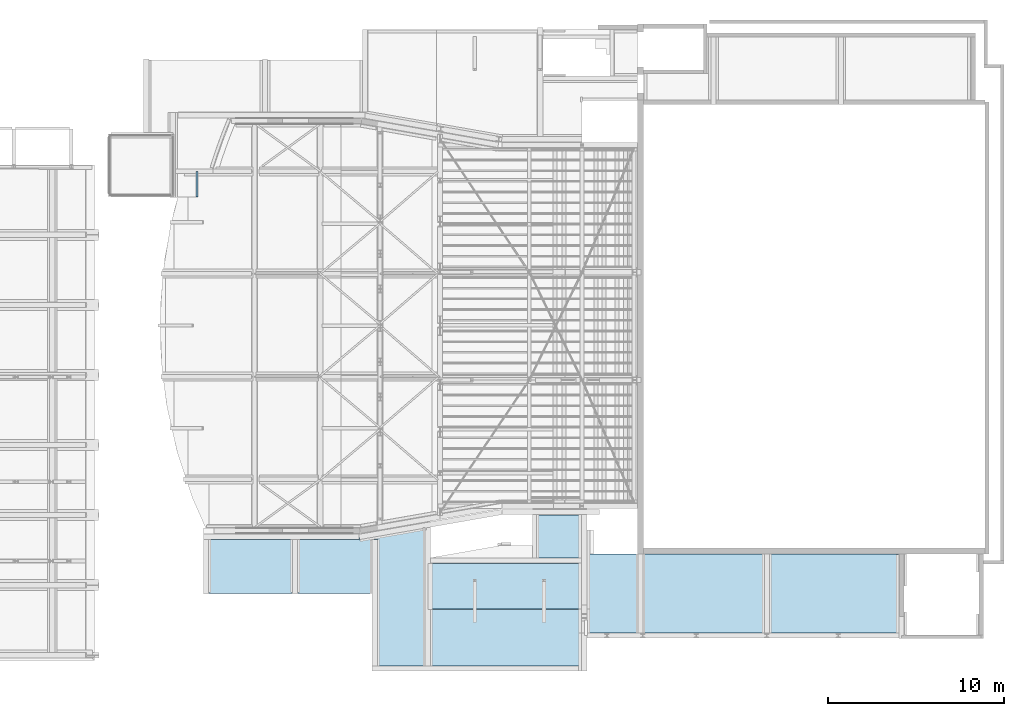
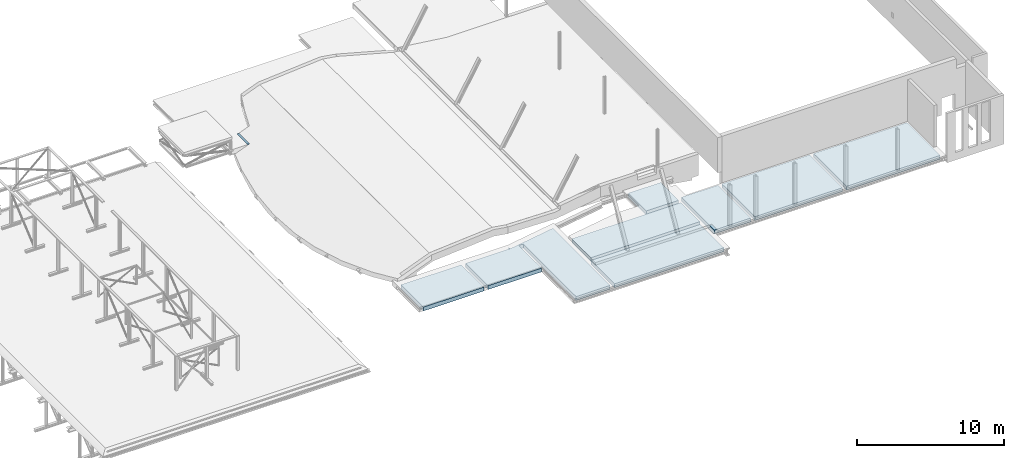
# One storey, part 38 of 50: 3 slabs, 20 openings.
"""IFC2X3 building model written with IfcOpenShell, lengths in millimetres."""

from ifc_helpers import new_model, entity, si_unit, converted_unit, derived_unit, direction, frame, frame_2d, origin, origin_2d_with_axis, place, context, subcontext, project, spatial, polyline, rectangle, outline, extrude, clip, halfspace, faceted_brep, material, layer, layer_set, layer_usage, type_object, element, save


model = new_model("IFC2X3")

# Units and contexts
model_context = context("Model", 3, precision=0.01, world=origin(), true_north=direction((6.12303176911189e-17, 1.0)))
body_context = subcontext(model_context, "Body", "Model", "MODEL_VIEW")
ifc_project = project(units=[si_unit("LENGTHUNIT", "METRE", prefix="MILLI"), si_unit("AREAUNIT", "SQUARE_METRE", prefix="MILLI"), si_unit("VOLUMEUNIT", "CUBIC_METRE"), converted_unit("PLANEANGLEUNIT", "DEGREE", entity("IfcRatioMeasure", 0.0174532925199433), si_unit("PLANEANGLEUNIT", "RADIAN"), dimensions=[0, 0, 0, 0, 0, 0, 0]), si_unit("MASSUNIT", "GRAM", prefix="KILO"), derived_unit("MASSDENSITYUNIT", [(si_unit("MASSUNIT", "GRAM", prefix="KILO"), 1), (si_unit("LENGTHUNIT", "METRE"), -3)]), derived_unit("MOMENTOFINERTIAUNIT", [(si_unit("LENGTHUNIT", "METRE"), 4)]), si_unit("TIMEUNIT", "SECOND"), si_unit("FREQUENCYUNIT", "HERTZ"), si_unit("THERMODYNAMICTEMPERATUREUNIT", "DEGREE_CELSIUS"), derived_unit("THERMALTRANSMITTANCEUNIT", [(si_unit("MASSUNIT", "GRAM", prefix="KILO"), 1), (si_unit("THERMODYNAMICTEMPERATUREUNIT", "KELVIN"), -1), (si_unit("TIMEUNIT", "SECOND"), -3)]), derived_unit("VOLUMETRICFLOWRATEUNIT", [(si_unit("LENGTHUNIT", "METRE"), 3), (si_unit("TIMEUNIT", "SECOND"), -1)]), si_unit("ELECTRICCURRENTUNIT", "AMPERE"), si_unit("ELECTRICVOLTAGEUNIT", "VOLT"), si_unit("POWERUNIT", "WATT"), si_unit("FORCEUNIT", "NEWTON", prefix="KILO"), si_unit("ILLUMINANCEUNIT", "LUX"), si_unit("LUMINOUSFLUXUNIT", "LUMEN"), si_unit("LUMINOUSINTENSITYUNIT", "CANDELA"), derived_unit("USERDEFINED", [(si_unit("MASSUNIT", "GRAM", prefix="KILO"), -1), (si_unit("LENGTHUNIT", "METRE"), -2), (si_unit("TIMEUNIT", "SECOND"), 3), (si_unit("LUMINOUSFLUXUNIT", "LUMEN"), 1)]), derived_unit("LINEARVELOCITYUNIT", [(si_unit("LENGTHUNIT", "METRE"), 1), (si_unit("TIMEUNIT", "SECOND"), -1)]), si_unit("PRESSUREUNIT", "PASCAL"), derived_unit("USERDEFINED", [(si_unit("LENGTHUNIT", "METRE"), -2), (si_unit("MASSUNIT", "GRAM", prefix="KILO"), 1), (si_unit("TIMEUNIT", "SECOND"), -2)]), derived_unit("LINEARFORCEUNIT", [(si_unit("MASSUNIT", "GRAM", prefix="KILO"), 1), (si_unit("LENGTHUNIT", "METRE"), 1), (si_unit("TIMEUNIT", "SECOND"), -2), (si_unit("LENGTHUNIT", "METRE"), -1)]), derived_unit("PLANARFORCEUNIT", [(si_unit("MASSUNIT", "GRAM", prefix="KILO"), 1), (si_unit("LENGTHUNIT", "METRE"), 1), (si_unit("TIMEUNIT", "SECOND"), -2), (si_unit("LENGTHUNIT", "METRE"), -2)])], contexts=[model_context])

# Site, building, storey
site_placement = place(None, origin())
site = spatial("IfcSite", under=ifc_project, at=site_placement, Name="Theater aan de Parade", CompositionType="ELEMENT")
building_placement = place(site_placement, origin())
building = spatial("IfcBuilding", under=site, at=building_placement, Name="Theater aan de Parade", CompositionType="ELEMENT")
storey_placement = place(building_placement, frame((0.0, 0.0, 15820.0)))
storey = spatial("IfcBuildingStorey", under=building, at=storey_placement, Name="04 vierde verdieping", CompositionType="ELEMENT", Elevation=15820.0)

# Slab, openings
ifc_material_1 = material(Name="00_PBT_MAT_systeemvloer")
ifc_layer_1 = layer(ifc_material_1, 320.0)
ifc_layer_set_1 = layer_set([ifc_layer_1], Name="Floor:28_PBT_FL_kanaalplaat_d=320")
ifc_layer_usage_1 = layer_usage(ifc_layer_set_1, "AXIS3", "POSITIVE", 0.0)
slab_type_1 = type_object("IfcSlabType", Name="Floor:28_PBT_FL_kanaalplaat_d=320", PredefinedType="FLOOR", material=ifc_layer_set_1)
slab_1_placement = place(storey_placement, frame((55620.0, 14982.0, 225.0)))
slab_1 = element("IfcSlab", 1, at=slab_1_placement, inside=storey, type_object=slab_type_1, material=ifc_layer_usage_1, Name="Floor:28_PBT_FL_kanaalplaat_d=320", ObjectType="Floor:28_PBT_FL_kanaalplaat_d=320", PredefinedType="FLOOR", context=body_context, shape_type="SweptSolid", body=[
    extrude(outline(polyline([(4395.45213534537, -3511.50000000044), (4395.45213534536, -1996.69666399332), (13290.0042108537, -1996.6966639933), (13290.0042108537, 754.28720412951), (7390.42951088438, 754.287204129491), (7390.42951088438, 3521.50000000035), (4565.45213534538, 3521.50000000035), (4565.45213534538, 1126.50024352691), (-13290.0042108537, 1126.50024352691), (-13290.0042108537, -2433.50000000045), (-13450.0042108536, -2433.50000000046), (-13450.0042108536, -3511.50000000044), (4395.45213534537, -3511.50000000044)])), frame((13290.0042108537, 3351.50000000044, 320.0), z_axis=(0.0, 0.0, -1.0), x_axis=(-1.0, 0.0, 0.0)), (0.0, 0.0, 1.0), 320.000000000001),
])
opening_1_placement = place(slab_1_placement, origin())
element("IfcOpeningElement", 2, at=opening_1_placement, cuts=slab_1, ObjectType="Opening", context=body_context, shape_type="SweptSolid", body=[
    extrude(rectangle(XDim=17725.4563461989, YDim=320.000000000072, at=origin_2d_with_axis()), frame((17737.2802486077, -160.0, 0.0)), (0.0, 0.0, 1.0), 319.999999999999),
])
opening_2_placement = place(slab_1_placement, frame((11646.2561009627, -20.0, -5.0)))
element("IfcOpeningElement", 3, at=opening_2_placement, cuts=slab_1, ObjectType="Opening", context=body_context, shape_type="Brep", body=[
    faceted_brep([(105.0, 0.0, 325.0), (425.0, 0.0, 325.0), (105.0, 4498.00024352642, 325.0), (425.0, 4498.00024352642, 325.0), (0.0, 0.0, 2.0), (0.0, 0.0, 1.0), (105.0, 0.0, 1.0), (425.0, 0.0, 1.0), (105.0, 0.0, 0.0), (425.0, 0.0, 0.0), (530.0, 0.0, 2.0), (530.0, 0.0, 1.0), (425.0, 0.0, 2.0), (105.0, 0.0, 2.0), (105.0, 4498.00024352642, 1.0), (0.0, 4498.00024352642, 1.0), (0.0, 4498.00024352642, 2.0), (105.0, 4498.00024352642, 0.0), (425.0, 4498.00024352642, 1.0), (425.0, 4498.00024352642, 0.0), (530.0, 4498.00024352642, 1.0), (530.0, 4498.00024352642, 2.0), (425.0, 4498.00024352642, 2.0), (105.0, 4498.00024352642, 2.0), (425.0, 500.0, 1.0), (425.0, 500.0, 2.0), (425.0, 4348.00024352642, 1.0), (425.0, 4348.00024352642, 2.0), (105.0, 400.0, 2.0), (105.0, 400.0, 1.0), (105.0, 4398.00024352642, 1.0), (105.0, 4398.00024352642, 2.0), (530.0, 4348.00024352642, 2.0), (530.0, 4348.00024352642, 1.0), (0.0, 4398.00024352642, 2.0), (0.0, 4398.00024352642, 1.0), (530.0, 500.0, 2.0), (530.0, 500.0, 1.0), (0.0, 400.0, 2.0), (0.0, 400.0, 1.0)], [[[0, 1, 2]], [[3, 2, 1]], [[4, 5, 6]], [[7, 6, 8]], [[8, 9, 7]], [[10, 7, 11]], [[7, 12, 6]], [[1, 0, 13]], [[6, 12, 13]], [[12, 7, 10]], [[13, 12, 1]], [[13, 4, 6]], [[14, 15, 16]], [[17, 14, 18]], [[18, 19, 17]], [[20, 18, 21]], [[14, 22, 18]], [[23, 2, 3]], [[23, 22, 14]], [[21, 18, 22]], [[3, 22, 23]], [[14, 16, 23]], [[9, 24, 7]], [[24, 9, 19]], [[1, 12, 25]], [[1, 25, 3]], [[24, 26, 25]], [[26, 19, 18]], [[19, 26, 24]], [[27, 22, 3]], [[27, 3, 25]], [[26, 27, 25]], [[0, 28, 13]], [[28, 0, 2]], [[8, 6, 29]], [[8, 29, 17]], [[28, 30, 29]], [[31, 2, 23]], [[2, 31, 28]], [[30, 14, 17]], [[30, 17, 29]], [[31, 30, 28]], [[9, 8, 19]], [[17, 19, 8]], [[22, 27, 21]], [[32, 21, 27]], [[20, 33, 26]], [[26, 18, 20]], [[32, 27, 26]], [[26, 33, 32]], [[21, 32, 33]], [[33, 20, 21]], [[34, 31, 23]], [[23, 16, 34]], [[15, 14, 30]], [[30, 35, 15]], [[34, 16, 15]], [[15, 35, 34]], [[31, 34, 35]], [[35, 30, 31]], [[25, 12, 10]], [[10, 36, 25]], [[37, 11, 7]], [[7, 24, 37]], [[36, 10, 11]], [[11, 37, 36]], [[25, 36, 37]], [[37, 24, 25]], [[38, 4, 13]], [[13, 28, 38]], [[29, 6, 5]], [[5, 39, 29]], [[38, 28, 29]], [[29, 39, 38]], [[4, 38, 39]], [[39, 5, 4]]]),
])
opening_3_placement = place(slab_1_placement, frame((18826.8589692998, -20.0, -5.0)))
element("IfcOpeningElement", 4, at=opening_3_placement, cuts=slab_1, ObjectType="Opening", context=body_context, shape_type="Brep", body=[
    faceted_brep([(105.0, 0.0, 325.0), (425.0, 0.0, 325.0), (105.0, 4498.00024352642, 325.0), (425.0, 4498.00024352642, 325.0), (0.0, 0.0, 2.0), (0.0, 0.0, 1.0), (105.0, 0.0, 1.0), (425.0, 0.0, 1.0), (105.0, 0.0, 0.0), (425.0, 0.0, 0.0), (530.0, 0.0, 2.0), (530.0, 0.0, 1.0), (425.0, 0.0, 2.0), (105.0, 0.0, 2.0), (105.0, 4498.00024352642, 1.0), (0.0, 4498.00024352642, 1.0), (0.0, 4498.00024352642, 2.0), (105.0, 4498.00024352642, 0.0), (425.0, 4498.00024352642, 1.0), (425.0, 4498.00024352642, 0.0), (530.0, 4498.00024352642, 1.0), (530.0, 4498.00024352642, 2.0), (425.0, 4498.00024352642, 2.0), (105.0, 4498.00024352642, 2.0), (425.0, 500.0, 1.0), (425.0, 500.0, 2.0), (425.0, 4348.00024352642, 1.0), (425.0, 4348.00024352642, 2.0), (105.0, 400.0, 2.0), (105.0, 400.0, 1.0), (105.0, 4398.00024352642, 1.0), (105.0, 4398.00024352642, 2.0), (530.0, 4348.00024352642, 2.0), (530.0, 4348.00024352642, 1.0), (0.0, 4398.00024352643, 2.0), (0.0, 4398.00024352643, 1.0), (530.0, 500.0, 2.0), (530.0, 500.0, 1.0), (0.0, 400.0, 2.0), (0.0, 400.0, 1.0)], [[[0, 1, 2]], [[3, 2, 1]], [[4, 5, 6]], [[7, 6, 8]], [[8, 9, 7]], [[10, 7, 11]], [[7, 12, 6]], [[1, 0, 13]], [[6, 12, 13]], [[12, 7, 10]], [[13, 12, 1]], [[13, 4, 6]], [[14, 15, 16]], [[17, 14, 18]], [[18, 19, 17]], [[20, 18, 21]], [[14, 22, 18]], [[23, 2, 3]], [[23, 22, 14]], [[21, 18, 22]], [[3, 22, 23]], [[14, 16, 23]], [[9, 24, 7]], [[24, 9, 19]], [[1, 12, 25]], [[1, 25, 3]], [[24, 26, 25]], [[26, 19, 18]], [[19, 26, 24]], [[27, 22, 3]], [[27, 3, 25]], [[26, 27, 25]], [[0, 28, 13]], [[28, 0, 2]], [[8, 6, 29]], [[8, 29, 17]], [[28, 30, 29]], [[31, 2, 23]], [[2, 31, 28]], [[30, 14, 17]], [[30, 17, 29]], [[31, 30, 28]], [[9, 8, 19]], [[17, 19, 8]], [[22, 27, 21]], [[32, 21, 27]], [[20, 33, 26]], [[26, 18, 20]], [[32, 27, 26]], [[26, 33, 32]], [[21, 32, 33]], [[33, 20, 21]], [[34, 31, 23]], [[23, 16, 34]], [[15, 14, 30]], [[30, 35, 15]], [[34, 16, 15]], [[15, 35, 34]], [[31, 34, 35]], [[35, 30, 31]], [[25, 12, 10]], [[10, 36, 25]], [[37, 11, 7]], [[7, 24, 37]], [[36, 10, 11]], [[11, 37, 36]], [[25, 36, 37]], [[37, 24, 25]], [[38, 4, 13]], [[13, 28, 38]], [[29, 6, 5]], [[5, 39, 29]], [[38, 28, 29]], [[29, 39, 38]], [[4, 38, 39]], [[39, 5, 4]]]),
])
opening_4_placement = place(slab_1_placement, origin())
element("IfcOpeningElement", 5, at=opening_4_placement, cuts=slab_1, ObjectType="Opening", context=body_context, shape_type="SweptSolid", body=[
    extrude(rectangle(XDim=320.000000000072, YDim=8574.55207550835, at=origin_2d_with_axis()), frame((4267.27603775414, 4105.78720412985, 0.0), z_axis=(0.0, 0.0, 1.0), x_axis=(0.0, 1.0, 0.0)), (0.0, 0.0, 1.0), 319.999999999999),
])
opening_5_placement = place(slab_1_placement, origin())
element("IfcOpeningElement", 6, at=opening_5_placement, cuts=slab_1, ObjectType="Opening", context=body_context, shape_type="SweptSolid", body=[
    extrude(rectangle(XDim=339.999999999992, YDim=5560.0, at=origin_2d_with_axis()), frame((6812.0520755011, 6873.0, -10.0), z_axis=(0.0, 0.0, 1.0), x_axis=(0.0, 1.0, 0.0)), (0.0, 0.0, 1.0), 329.999999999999),
])
opening_6_placement = place(slab_1_placement, origin())
element("IfcOpeningElement", 7, at=opening_6_placement, cuts=slab_1, ObjectType="Opening", context=body_context, shape_type="SweptSolid", body=[
    extrude(rectangle(XDim=260.000000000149, YDim=2477.21279587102, at=origin_2d_with_axis()), frame((5899.5746999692, 5484.39360206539, -5.0)), (0.0, 0.0, 1.0), 325.000000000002),
])
opening_7_placement = place(slab_1_placement, origin())
element("IfcOpeningElement", 8, at=opening_7_placement, cuts=slab_1, ObjectType="Opening", context=body_context, shape_type="SweptSolid", body=[
    extrude(rectangle(XDim=5368.19666399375, YDim=340.000000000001, at=origin_2d_with_axis()), frame((8724.5520755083, 4038.901668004, -5.0), z_axis=(0.0, 0.0, 1.0), x_axis=(0.0, 1.0, 0.0)), (0.0, 0.0, 1.0), 330.000000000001),
])
opening_8_placement = place(slab_1_placement, origin())
element("IfcOpeningElement", 9, at=opening_8_placement, cuts=slab_1, ObjectType="Opening", context=body_context, shape_type="SweptSolid", body=[
    extrude(rectangle(XDim=1274.99999999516, YDim=320.000000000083, at=origin_2d_with_axis()), frame((26740.0084217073, 305.50000000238, 0.0), z_axis=(0.0, 0.0, 1.0), x_axis=(0.0, 1.0, 0.0)), (0.0, 0.0, 1.0), 319.999999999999),
])

ifc_layer_usage_2 = layer_usage(ifc_layer_set_1, "AXIS3", "POSITIVE", 0.0)
slab_type_2 = type_object("IfcSlabType", Name="Floor:28_PBT_FL_kanaalplaat_d=320", PredefinedType="FLOOR", material=ifc_layer_set_1)
slab_2_placement = place(storey_placement, frame((43014.909163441, 13115.0, 15.0)))
slab_2 = element("IfcSlab", 10, at=slab_2_placement, inside=storey, type_object=slab_type_2, material=ifc_layer_usage_2, Name="Floor:28_PBT_FL_kanaalplaat_d=320", ObjectType="Floor:28_PBT_FL_kanaalplaat_d=320", PredefinedType="FLOOR", context=body_context, shape_type="SweptSolid", body=[
    extrude(outline(polyline([(-10749.8214560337, -696.594638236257), (-10749.8214560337, -4058.39797424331), (1155.16183277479, -4058.39797424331), (1155.16183277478, 207.433892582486), (10749.8214560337, 207.433892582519), (10749.8214560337, 3431.6020257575), (1968.32743531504, 3431.6020257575), (-1855.26938052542, 4100.73146852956), (-1855.2693805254, -696.594638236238), (-10749.8214560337, -696.594638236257)])), frame((10579.8214560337, 3898.39797424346, 320.0), z_axis=(0.0, 0.0, -1.0), x_axis=(-1.0, 0.0, 0.0)), (0.0, 0.0, 1.0), 320.000000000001),
])
opening_9_placement = place(slab_2_placement, origin())
element("IfcOpeningElement", 11, at=opening_9_placement, cuts=slab_2, ObjectType="Opening", context=body_context, shape_type="SweptSolid", body=[
    extrude(rectangle(XDim=320.000000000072, YDim=11953.2332888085, at=origin_2d_with_axis()), frame((15251.2762676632, -160.0, 0.0), z_axis=(0.0, 0.0, 1.0), x_axis=(0.0, 1.0, 0.0)), (0.0, 0.0, 1.0), 319.999999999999),
])
opening_10_placement = place(slab_2_placement, origin())
element("IfcOpeningElement", 12, at=opening_10_placement, cuts=slab_2, ObjectType="Opening", context=body_context, shape_type="SweptSolid", body=[
    extrude(rectangle(XDim=339.999999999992, YDim=8849.55984125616, at=origin_2d_with_axis()), frame((4104.77992062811, 7330.0, 0.0), z_axis=(0.0, 0.0, 1.0), x_axis=(0.0, 1.0, 0.0)), (0.0, 0.0, 1.0), 319.999999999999),
])
opening_11_placement = place(slab_2_placement, origin())
element("IfcOpeningElement", 13, at=opening_11_placement, cuts=slab_2, ObjectType="Opening", context=body_context, shape_type="SweptSolid", body=[
    extrude(rectangle(XDim=8227.18093451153, YDim=340.000000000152, at=origin_2d_with_axis()), frame((12589.4769856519, 8026.14701886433, -5.0), z_axis=(0.0, 0.0, 1.0), x_axis=(-0.985030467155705, -0.172380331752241, 0.0)), (0.0, 0.0, 1.0), 325.0),
])
opening_12_placement = place(slab_2_placement, origin())
element("IfcOpeningElement", 14, at=opening_12_placement, cuts=slab_2, ObjectType="Opening", context=body_context, shape_type="SweptSolid", body=[
    extrude(rectangle(XDim=260.000000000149, YDim=2477.21279587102, at=origin_2d_with_axis()), frame((18504.6655365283, 7351.39360206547, 205.0)), (0.0, 0.0, 1.0), 325.000000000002),
])
opening_13_placement = place(slab_2_placement, origin())
element("IfcOpeningElement", 15, at=opening_13_placement, cuts=slab_2, ObjectType="Opening", context=body_context, shape_type="SweptSolid", body=[
    extrude(rectangle(XDim=320.000000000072, YDim=8574.55207550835, at=origin_2d_with_axis()), frame((16872.3668743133, 5972.78720412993, 210.0), z_axis=(0.0, 0.0, 1.0), x_axis=(0.0, 1.0, 0.0)), (0.0, 0.0, 1.0), 319.999999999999),
])
opening_14_placement = place(slab_2_placement, frame((12165.0908365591, -20.0, -85.0)))
element("IfcOpeningElement", 16, at=opening_14_placement, cuts=slab_2, ObjectType="Opening", context=body_context, shape_type="Brep", body=[
    faceted_brep([(0.0, 0.0, 2.0), (0.0, 0.0, 1.0), (100.0, 0.0, 1.0), (440.0, 0.0, 1.0), (100.0, 0.0, 0.0), (440.0, 0.0, 0.0), (540.0, 0.0, 2.0), (540.0, 0.0, 1.0), (440.0, 0.0, 2.0), (440.0, 0.0, 405.0), (100.0, 0.0, 405.0), (100.0, 0.0, 2.0), (440.0, 7866.8498889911, 0.0), (100.0, 7866.8498889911, 1.0), (100.0, 7866.8498889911, 2.0), (100.0, 7866.8498889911, 0.0), (0.0, 7866.8498889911, 1.0), (0.0, 7866.8498889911, 2.0), (440.0, 7866.8498889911, 405.0), (100.0, 7866.8498889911, 405.0), (440.0, 500.0, 1.0), (440.0, 500.0, 2.0), (100.0, 400.0, 2.0), (100.0, 400.0, 1.0), (100.0, 7766.84988899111, 1.0), (100.0, 7766.84988899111, 2.0), (0.0, 7766.8498889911, 2.0), (0.0, 7766.8498889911, 1.0), (540.0, 500.0, 2.0), (540.0, 500.0, 1.0), (0.0, 400.0, 2.0), (0.0, 400.0, 1.0)], [[[0, 1, 2]], [[3, 2, 4]], [[4, 5, 3]], [[6, 3, 7]], [[3, 8, 2]], [[9, 10, 11]], [[2, 8, 11]], [[8, 3, 6]], [[11, 8, 9]], [[11, 0, 2]], [[12, 13, 14]], [[13, 12, 15]], [[16, 17, 13]], [[14, 18, 12]], [[18, 14, 19]], [[17, 14, 13]], [[3, 5, 20]], [[9, 8, 21]], [[20, 12, 21]], [[12, 20, 5]], [[21, 18, 9]], [[18, 21, 12]], [[10, 9, 19]], [[18, 19, 9]], [[10, 22, 11]], [[22, 10, 19]], [[4, 2, 23]], [[4, 23, 15]], [[22, 24, 23]], [[25, 19, 14]], [[19, 25, 22]], [[24, 13, 15]], [[24, 15, 23]], [[25, 24, 22]], [[5, 4, 12]], [[15, 12, 4]], [[26, 25, 14]], [[14, 17, 26]], [[16, 13, 24]], [[24, 27, 16]], [[21, 8, 28]], [[6, 28, 8]], [[29, 7, 20]], [[3, 20, 7]], [[21, 28, 29]], [[29, 20, 21]], [[30, 0, 11]], [[11, 22, 30]], [[23, 2, 1]], [[1, 31, 23]], [[30, 22, 23]], [[23, 31, 30]], [[0, 30, 31]], [[31, 1, 0]], [[26, 17, 16]], [[16, 27, 26]], [[25, 26, 27]], [[27, 24, 25]], [[28, 6, 7]], [[7, 29, 28]]]),
])
opening_15_placement = place(slab_2_placement, frame((9149.65962325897, -20.0, -5.0)))
element("IfcOpeningElement", 17, at=opening_15_placement, cuts=slab_2, ObjectType="Opening", context=body_context, shape_type="Brep", body=[
    faceted_brep([(105.0, 0.0, 325.0), (445.0, 0.0, 325.0), (105.0, 7200.0, 325.0), (445.0, 7200.0, 325.0), (550.0, 500.0, 2.0), (550.0, 0.0, 2.0), (550.0, 0.0, 1.0), (550.0, 500.0, 1.0), (445.0, 0.0, 0.0), (445.0, 0.0, 1.0), (105.0, 0.0, 0.0), (445.0, 0.0, 2.0), (105.0, 7200.0, 1.0), (0.0, 7200.0, 1.0), (0.0, 7200.0, 2.0), (105.0, 7200.0, 0.0), (445.0, 7200.0, 1.0), (445.0, 7200.0, 0.0), (550.0, 7200.0, 1.0), (550.0, 7200.0, 2.0), (445.0, 7200.0, 2.0), (105.0, 7200.0, 2.0), (445.0, 500.0, 1.0), (445.0, 500.0, 2.0), (445.0, 7050.0, 1.0), (445.0, 7050.0, 2.0), (105.0, 7100.0, 2.0), (105.0, 7100.0, 1.0), (550.0, 7050.0, 2.0), (550.0, 7050.0, 1.0), (0.0, 7100.0, 2.0), (0.0, 7100.0, 1.0)], [[[0, 1, 2]], [[3, 2, 1]], [[4, 5, 6]], [[6, 7, 4]], [[8, 9, 10]], [[11, 10, 9]], [[6, 5, 9]], [[1, 0, 11]], [[10, 11, 0]], [[9, 5, 11]], [[12, 13, 14]], [[15, 12, 16]], [[16, 17, 15]], [[18, 16, 19]], [[12, 20, 16]], [[21, 2, 3]], [[21, 20, 12]], [[19, 16, 20]], [[3, 20, 21]], [[12, 14, 21]], [[8, 22, 9]], [[22, 8, 17]], [[1, 11, 23]], [[1, 23, 3]], [[22, 24, 23]], [[24, 17, 16]], [[17, 24, 22]], [[25, 20, 3]], [[25, 3, 23]], [[24, 25, 23]], [[0, 26, 10]], [[26, 0, 2]], [[10, 27, 15]], [[27, 10, 26]], [[2, 21, 26]], [[12, 15, 27]], [[8, 10, 17]], [[15, 17, 10]], [[20, 25, 28]], [[28, 19, 20]], [[18, 29, 16]], [[24, 16, 29]], [[28, 25, 24]], [[24, 29, 28]], [[19, 28, 29]], [[29, 18, 19]], [[30, 26, 21]], [[21, 14, 30]], [[13, 12, 27]], [[27, 31, 13]], [[30, 14, 13]], [[13, 31, 30]], [[26, 30, 31]], [[31, 27, 26]], [[23, 11, 5]], [[5, 4, 23]], [[7, 6, 9]], [[9, 22, 7]], [[23, 4, 7]], [[7, 22, 23]]]),
])
opening_16_placement = place(slab_2_placement, origin())
element("IfcOpeningElement", 18, at=opening_16_placement, cuts=slab_2, ObjectType="Opening", context=body_context, shape_type="SweptSolid", body=[
    extrude(rectangle(XDim=340.000000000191, YDim=3400.0, at=origin_2d_with_axis()), frame((-170.0, 5480.0, -5.0)), (0.0, 0.0, 1.0), 325.0),
])
opening_17_placement = place(slab_2_placement, frame((24251.3469375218, 1847.0, 205.0)))
element("IfcOpeningElement", 19, at=opening_17_placement, cuts=slab_2, ObjectType="Opening", context=body_context, shape_type="Brep", body=[
    faceted_brep([(105.0, 0.0, 325.0), (425.0, 0.0, 325.0), (105.0, 4498.00024352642, 325.0), (425.0, 4498.00024352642, 325.0), (0.0, 0.0, 2.0), (0.0, 0.0, 1.0), (105.0, 0.0, 1.0), (425.0, 0.0, 1.0), (105.0, 0.0, 0.0), (425.0, 0.0, 0.0), (530.0, 0.0, 2.0), (530.0, 0.0, 1.0), (425.0, 0.0, 2.0), (105.0, 0.0, 2.0), (105.0, 4498.00024352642, 1.0), (0.0, 4498.00024352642, 1.0), (0.0, 4498.00024352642, 2.0), (105.0, 4498.00024352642, 0.0), (425.0, 4498.00024352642, 1.0), (425.0, 4498.00024352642, 0.0), (530.0, 4498.00024352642, 1.0), (530.0, 4498.00024352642, 2.0), (425.0, 4498.00024352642, 2.0), (105.0, 4498.00024352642, 2.0), (425.0, 500.0, 1.0), (425.0, 500.0, 2.0), (425.0, 4348.00024352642, 1.0), (425.0, 4348.00024352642, 2.0), (105.0, 400.0, 2.0), (105.0, 400.0, 1.0), (105.0, 4398.00024352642, 1.0), (105.0, 4398.00024352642, 2.0), (530.0, 4348.00024352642, 2.0), (530.0, 4348.00024352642, 1.0), (0.0, 4398.00024352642, 2.0), (0.0, 4398.00024352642, 1.0), (530.0, 500.0, 2.0), (530.0, 500.0, 1.0), (0.0, 400.0, 2.0), (0.0, 400.0, 1.0)], [[[0, 1, 2]], [[3, 2, 1]], [[4, 5, 6]], [[7, 6, 8]], [[8, 9, 7]], [[10, 7, 11]], [[7, 12, 6]], [[1, 0, 13]], [[6, 12, 13]], [[12, 7, 10]], [[13, 12, 1]], [[13, 4, 6]], [[14, 15, 16]], [[17, 14, 18]], [[18, 19, 17]], [[20, 18, 21]], [[14, 22, 18]], [[23, 2, 3]], [[23, 22, 14]], [[21, 18, 22]], [[3, 22, 23]], [[14, 16, 23]], [[9, 24, 7]], [[24, 9, 19]], [[1, 12, 25]], [[1, 25, 3]], [[24, 26, 25]], [[26, 19, 18]], [[19, 26, 24]], [[27, 22, 3]], [[27, 3, 25]], [[26, 27, 25]], [[0, 28, 13]], [[28, 0, 2]], [[8, 6, 29]], [[8, 29, 17]], [[28, 30, 29]], [[31, 2, 23]], [[2, 31, 28]], [[30, 14, 17]], [[30, 17, 29]], [[31, 30, 28]], [[9, 8, 19]], [[17, 19, 8]], [[22, 27, 21]], [[32, 21, 27]], [[20, 33, 26]], [[26, 18, 20]], [[32, 27, 26]], [[26, 33, 32]], [[21, 32, 33]], [[33, 20, 21]], [[34, 31, 23]], [[23, 16, 34]], [[15, 14, 30]], [[30, 35, 15]], [[34, 16, 15]], [[15, 35, 34]], [[31, 34, 35]], [[35, 30, 31]], [[25, 12, 10]], [[10, 36, 25]], [[37, 11, 7]], [[7, 24, 37]], [[36, 10, 11]], [[11, 37, 36]], [[25, 36, 37]], [[37, 24, 25]], [[38, 4, 13]], [[13, 28, 38]], [[29, 6, 5]], [[5, 39, 29]], [[38, 28, 29]], [[29, 39, 38]], [[4, 38, 39]], [[39, 5, 4]]]),
])
opening_18_placement = place(slab_2_placement, frame((4621.3298116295, 3760.0, -5.0)))
element("IfcOpeningElement", 20, at=opening_18_placement, cuts=slab_2, ObjectType="Opening", context=body_context, shape_type="Brep", body=[
    faceted_brep([(0.0, 0.0, 2.0), (0.0, 0.0, 1.0), (105.0, 0.0, 1.0), (445.0, 0.0, 1.0), (105.0, 0.0, 0.0), (445.0, 0.0, 0.0), (550.0, 0.0, 2.0), (550.0, 0.0, 1.0), (445.0, 0.0, 2.0), (445.0, 0.0, 325.0), (105.0, 0.0, 325.0), (105.0, 0.0, 2.0), (105.0, 3420.0, 1.0), (0.0, 3420.0, 1.0), (0.0, 3420.0, 2.0), (105.0, 3420.0, 0.0), (445.0, 3420.0, 1.0), (445.0, 3420.0, 0.0), (550.0, 3420.0, 1.0), (550.0, 3420.0, 2.0), (445.0, 3420.0, 2.0), (105.0, 3420.0, 2.0), (105.0, 3420.0, 325.0), (445.0, 3420.0, 325.0), (445.0, 500.0, 1.0), (445.0, 500.0, 2.0), (445.0, 3270.0, 1.0), (445.0, 3270.0, 2.0), (105.0, 400.0, 2.0), (105.0, 400.0, 1.0), (105.0, 3320.0, 1.0), (105.0, 3320.0, 2.0), (550.0, 3270.0, 2.0), (550.0, 3270.0, 1.0), (0.0, 3320.0, 2.0), (0.0, 3320.0, 1.0), (550.0, 500.0, 2.0), (550.0, 500.0, 1.0), (0.0, 400.0, 2.0), (0.0, 400.0, 1.0)], [[[0, 1, 2]], [[3, 2, 4]], [[4, 5, 3]], [[6, 3, 7]], [[3, 8, 2]], [[9, 10, 11]], [[2, 8, 11]], [[8, 3, 6]], [[11, 8, 9]], [[11, 0, 2]], [[12, 13, 14]], [[15, 12, 16]], [[16, 17, 15]], [[18, 16, 19]], [[12, 20, 16]], [[21, 22, 23]], [[21, 20, 12]], [[19, 16, 20]], [[23, 20, 21]], [[12, 14, 21]], [[5, 24, 3]], [[24, 5, 17]], [[9, 8, 25]], [[9, 25, 23]], [[24, 26, 25]], [[26, 17, 16]], [[17, 26, 24]], [[27, 20, 23]], [[27, 23, 25]], [[26, 27, 25]], [[10, 9, 23]], [[23, 22, 10]], [[10, 28, 11]], [[28, 10, 22]], [[4, 2, 29]], [[4, 29, 15]], [[28, 30, 29]], [[31, 22, 21]], [[22, 31, 28]], [[30, 12, 15]], [[30, 15, 29]], [[31, 30, 28]], [[5, 4, 15]], [[15, 17, 5]], [[20, 27, 32]], [[32, 19, 20]], [[18, 33, 26]], [[26, 16, 18]], [[32, 27, 26]], [[26, 33, 32]], [[19, 32, 33]], [[33, 18, 19]], [[34, 31, 21]], [[21, 14, 34]], [[13, 12, 30]], [[30, 35, 13]], [[34, 14, 13]], [[13, 35, 34]], [[31, 34, 35]], [[35, 30, 31]], [[25, 8, 6]], [[6, 36, 25]], [[37, 7, 3]], [[3, 24, 37]], [[36, 6, 7]], [[7, 37, 36]], [[25, 36, 37]], [[37, 24, 25]], [[38, 0, 28]], [[11, 28, 0]], [[29, 2, 39]], [[1, 39, 2]], [[38, 28, 29]], [[29, 39, 38]], [[0, 38, 39]], [[39, 1, 0]]]),
])
opening_19_placement = place(slab_2_placement, origin())
element("IfcOpeningElement", 21, at=opening_19_placement, cuts=slab_2, ObjectType="Opening", context=body_context, shape_type="SweptSolid", body=[
    extrude(rectangle(XDim=1354.80333600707, YDim=340.000000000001, at=origin_2d_with_axis()), frame((21329.6429120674, 2544.40166800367, -5.0), z_axis=(0.0, 0.0, 1.0), x_axis=(0.0, 1.0, 0.0)), (0.0, 0.0, 1.0), 540.000000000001),
])
opening_20_placement = place(slab_2_placement, origin())
element("IfcOpeningElement", 22, at=opening_20_placement, cuts=slab_2, ObjectType="Opening", context=body_context, shape_type="SweptSolid", body=[
    extrude(rectangle(XDim=2167.00000000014, YDim=340.000000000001, at=origin_2d_with_axis()), frame((21329.6429120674, 783.500000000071, -5.0), z_axis=(0.0, 0.0, 1.0), x_axis=(0.0, 1.0, 0.0)), (0.0, 0.0, 1.0), 540.000000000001),
])

# Slab
ifc_material_2 = material(Name="00_PBT_MAT_beton t.p.g._C30/37")
ifc_layer_2 = layer(ifc_material_2, 80.0)
ifc_layer_set_2 = layer_set([ifc_layer_2], Name="Floor:28_PBT_FL_druklaag_d=80_C30/37")
ifc_layer_usage_3 = layer_usage(ifc_layer_set_2, "AXIS3", "POSITIVE", 0.0)
slab_type_3 = type_object("IfcSlabType", Name="Floor:28_PBT_FL_druklaag_d=80_C30/37", PredefinedType="FLOOR", material=ifc_layer_set_2)
slab_3_placement = place(storey_placement, origin())
element("IfcSlab", 23, at=slab_3_placement, inside=storey, type_object=slab_type_3, material=ifc_layer_usage_3, Name="Floor:28_PBT_FL_druklaag_d=80_C30/37", ObjectType="Floor:28_PBT_FL_druklaag_d=80_C30/37", PredefinedType="FLOOR", context=body_context, shape_type="Clipping", body=[
    clip(extrude(rectangle(XDim=1448.56337295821, YDim=123.395924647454, at=frame_2d((4.37694325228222e-12, 1.29958266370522e-11), x_axis=(1.0, 0.0))), frame((42330.5560898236, 40474.2816808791, 415.0), z_axis=(0.0, 0.0, -1.0), x_axis=(0.0, 1.0, 0.0)), (0.0, 0.0, 1.0), 48.1100349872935), halfspace(frame((42858.9678314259, 33280.7252410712, 596.964001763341), z_axis=(0.363251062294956, 0.0, -0.931691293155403), x_axis=(-0.931691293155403, 0.0, -0.363251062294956)), False)),
])

save(model, "model.ifc")
